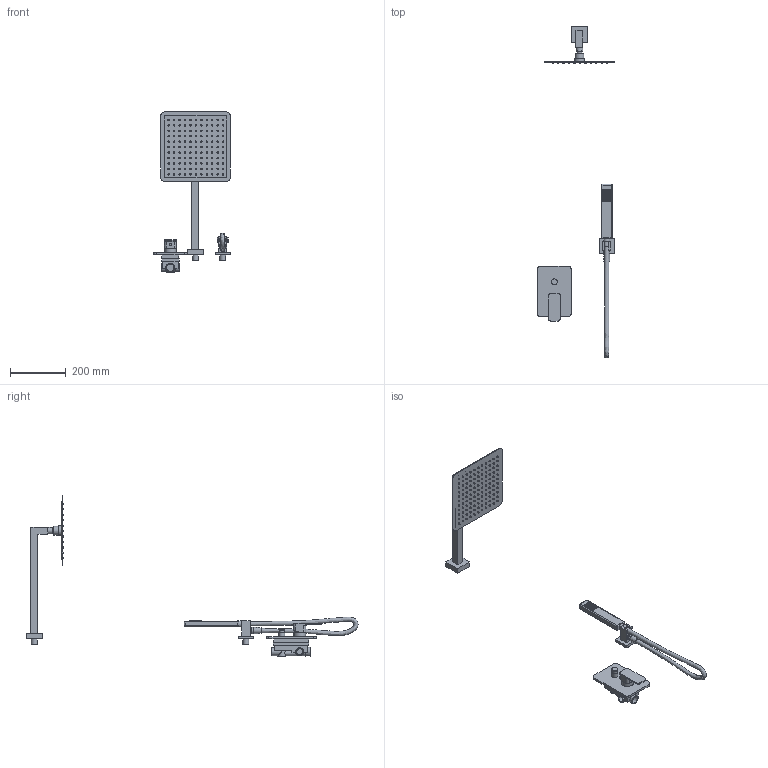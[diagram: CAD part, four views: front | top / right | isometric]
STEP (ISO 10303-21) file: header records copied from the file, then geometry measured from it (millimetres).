
FILE_DESCRIPTION(/* description */ ('CARRÉ Zestaw natryskowy podtynkowy'),/* implementation_level */ '2;1');
FILE_NAME(/* name */ 'C:\Nextcloud\02_biblioteki_cad\Valvex\Projekt\PROJECTS\Eksport\ETAP 1\ponowny eksport\2449980\2449980.stp',/* time_stamp */ '2021-07-16T13:57:20+02:00',/* author */ ('Gabriela W.'),/* organization */ (''),/* preprocessor_version */ 'ST-DEVELOPER v18.1',/* originating_system */ 'Autodesk Inventor 2020',/* authorisation */ '');
FILE_SCHEMA (('AUTOMOTIVE_DESIGN { 1 0 10303 214 3 1 1 }'));
Length unit declared in the file: millimetre
Products named in the file (9): 2449980; 2449980_przylacze_katowe; 2449980_waz; 2449980_sluchawka; 2454980; 2449980_deszczownica; 2455570; Bryła2; 2449980_dysze_deszczownica
Assembly tree (8 placements, depth 2):
  2449980
    2449980_przylacze_katowe
    2449980_waz
    2449980_sluchawka
    2454980
    2449980_deszczownica
    2455570
    Bryła2
    2449980_dysze_deszczownica
Bounding box: 275 x 1188.88 x 574.5 mm (x, y, z)
Volume: 1666218.2 mm3; surface area: 397037.1 mm2
Topology: 169 solids, 169 shells, 798 faces, 1560 edges, 1129 vertices
Faces by surface type: plane 597, cone 126, cylinder 63, sphere 9, torus 2, bspline 1
Full cylindrical faces by diameter (mm): 6 x2, 9 x1, 16.5 x1, 18 x3, 19 x1, 21 x11, 23 x2, 26 x1, 28 x4, 31 x1, 32 x1, 34 x1, 42 x1
Entity records: 22198 total; most frequent: CARTESIAN_POINT 4494, DIRECTION 3854, ORIENTED_EDGE 3118, EDGE_CURVE 1559, AXIS2_PLACEMENT_3D 1495, VERTEX_POINT 1129, LINE 864, VECTOR 864
